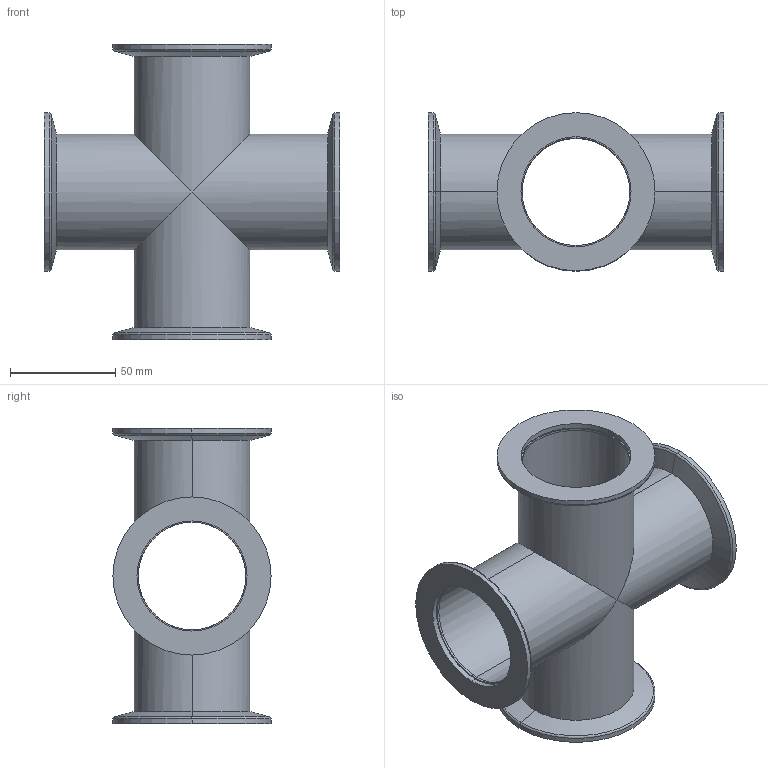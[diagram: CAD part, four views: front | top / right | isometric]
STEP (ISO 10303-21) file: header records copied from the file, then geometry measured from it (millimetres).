
FILE_DESCRIPTION (( 'STEP AP214' ), '1' );
FILE_NAME ('W3KS50.STEP', '2020-08-20T12:29:53', ( '' ), ( '' ), 'SwSTEP 2.0', 'SolidWorks 2020', '' );
FILE_SCHEMA (( 'AUTOMOTIVE_DESIGN' ));
Length unit declared in the file: millimetre
Products named in the file (1): W3KS50
Bounding box: 140 x 75 x 140 mm (x, y, z)
Volume: 104567.8 mm3; surface area: 94981.1 mm2
Topology: 8 solids, 8 shells, 88 faces, 192 edges, 120 vertices
Faces by surface type: cylinder 48, plane 24, torus 8, cone 8
Entity records: 2549 total; most frequent: CARTESIAN_POINT 497, DIRECTION 434, ORIENTED_EDGE 384, EDGE_CURVE 192, AXIS2_PLACEMENT_3D 185, VERTEX_POINT 120, EDGE_LOOP 104, CIRCLE 96
